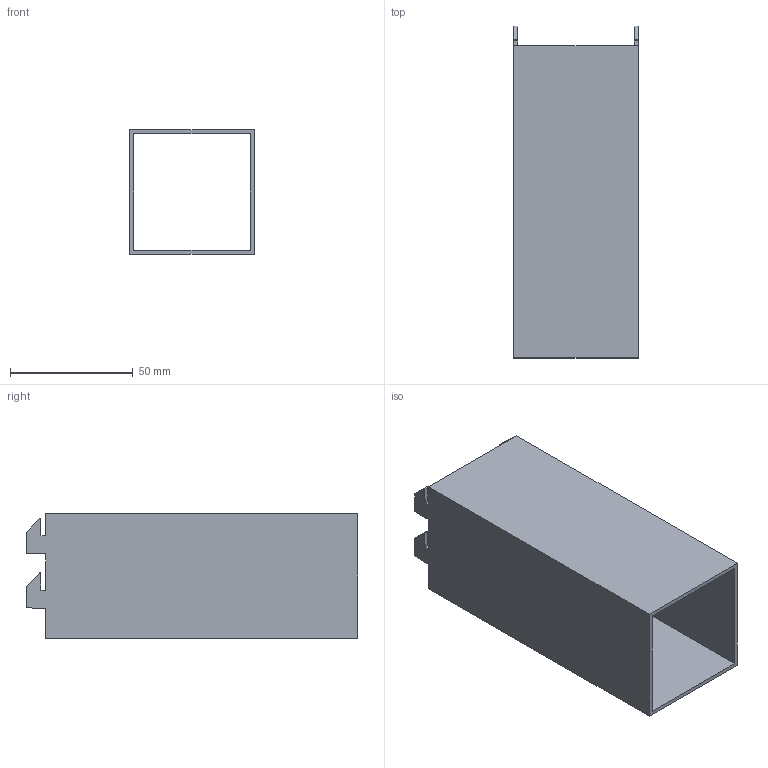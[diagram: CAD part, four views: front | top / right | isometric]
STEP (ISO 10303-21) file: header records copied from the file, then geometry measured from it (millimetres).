
FILE_DESCRIPTION(/* description */ ('STEP AP242 Edition 2','CAx-IF Rec.Pracs.---Representation and Presentation of Product Manufacturing Information (PMI)---4.0---2014-10-13','CAx-IF Rec.Pracs.---3D Tessellated Geometry---0.4---2014-09-14','2;1','CAx-IF Rec.Pracs.---User Defined Attributes---1.5---2016-08-15'),/* implementation_level */ '2;1');
FILE_NAME(/* name */ 'Hidden Toggle Lock Snap Joint 2x2 - Tube 2-x2-x5-',/* time_stamp */ '2026-07-06T21:51:19Z',/* author */ (''),/* organization */ (''),/* preprocessor_version */ 'ST-DEVELOPER v20',/* originating_system */ 'ONSHAPE BY PTC INC, 1.217',/* authorisation */ ' ');
FILE_SCHEMA (('AP242_MANAGED_MODEL_BASED_3D_ENGINEERING_MIM_LF { 1 0 10303 442 3 1 4 }'));
Length unit declared in the file: metre
Products named in the file (1): Tube 2"x2"x5"
Bounding box: 50.8 x 135 x 50.8 mm (x, y, z)
Volume: 41781.9 mm3; surface area: 51437.1 mm2
Topology: 1 solids, 1 shells, 41 faces, 120 edges, 80 vertices
Faces by surface type: plane 37, cylinder 4
Entity records: 1368 total; most frequent: CARTESIAN_POINT 242, ORIENTED_EDGE 240, DIRECTION 212, EDGE_CURVE 120, LINE 112, VECTOR 112, VERTEX_POINT 80, AXIS2_PLACEMENT_3D 50
